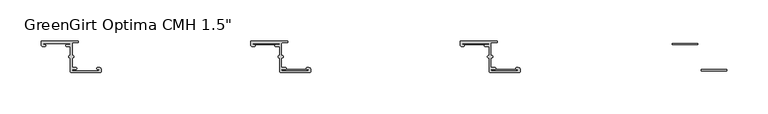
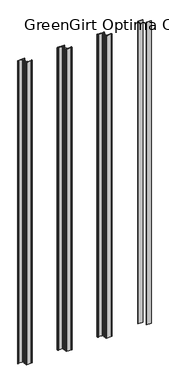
"""IFC4 building model written with IfcOpenShell, lengths in millimetres: fastener geometry."""

from ifc_helpers import new_model, si_unit, frame, origin, origin_with_axes, place, context, project, spatial, polyline, circle_curve, outline, extrude, source, transform, mapped, element, save
from ifc_brep_helpers import plane_surface, cylinder_surface, revolved_surface, advanced_brep


def fastener_c5e04b51(model_context):
    return source(origin(), model_context, "Body", "SolidModel", [
        extrude(outline(polyline([(1863.09, -2.794), (1863.09, -4.5212), (1832.102, -4.5212), (1832.102, -2.794), (1863.09, -2.794)])), origin_with_axes(), (0.0, 0.0, 1.0), 2032.0),
        extrude(outline(polyline([(1898.269, -34.4677766), (1898.269, -36.1949766), (1867.281, -36.1949766), (1867.281, -34.4677766), (1898.269, -34.4677766)])), origin_with_axes(), (0.0, 0.0, 1.0), 2032.0),
        advanced_brep(
        [(1578.102, -2.794, 2032.0), (1609.471, -2.794, 2032.0), (1609.471, -4.5212, 2032.0), (1605.28, -4.5212, 2032.0), (1605.28, -6.5532, 2032.0), (1609.471, -6.5532, 2032.0), (1610.233, -7.3152, 2032.0), (1610.233, -17.7601563, 2032.0), (1609.3845567, -17.7601563, 2032.0), (1609.3845567, -20.4288947, 2032.0), (1610.233, -20.4288947, 2032.0), (1610.233, -37.3379766, 2032.0), (1610.995, -38.0999766, 2032.0), (1646.8513242, -38.1, 2032.0), (1647.571, -37.3379766, 2032.0), (1647.571, -34.4677766, 2032.0), (1645.539, -32.4357766, 2032.0), (1643.253, -32.4357766, 2032.0), (1643.253, -34.4677766, 2032.0), (1644.269, -34.4677766, 2032.0), (1644.269, -36.1949766, 2032.0), (1612.9, -36.1949766, 2032.0), (1612.9, -34.4677766, 2032.0), (1617.091, -34.4677766, 2032.0), (1617.091, -32.4357766, 2032.0), (1612.9, -32.4357766, 2032.0), (1612.138, -31.6737766, 2032.0), (1612.138, -20.4279799, 2032.0), (1612.9869007, -20.4279799, 2032.0), (1612.9869007, -17.7601563, 2032.0), (1612.138, -17.7601563, 2032.0), (1612.138, -2.667, 2032.0), (1612.9, -1.905, 2032.0), (1618.996, -1.905, 2032.0), (1618.996, 0.0, 2032.0), (1575.562, 0.0, 2032.0), (1574.8, -0.762, 2032.0), (1574.8, -4.5212, 2032.0), (1576.832, -6.5532, 2032.0), (1579.118, -6.5532, 2032.0), (1579.118, -4.5212, 2032.0), (1578.102, -4.5212, 2032.0), (1578.102, -2.794, 0.0), (1578.102, -4.5212, 0.0), (1579.118, -4.5212, 0.0), (1579.118, -6.5532, 0.0), (1576.832, -6.5532, 0.0), (1574.8, -4.5212, 0.0), (1574.8, -0.762, 0.0), (1575.562, 0.0, 0.0), (1618.996, 0.0, 0.0), (1618.996, -1.905, 0.0), (1612.9, -1.905, 0.0), (1612.138, -2.667, 0.0), (1612.138, -17.7601563, 0.0), (1612.9869007, -17.7601563, 0.0), (1612.9869007, -20.4279799, 0.0), (1612.138, -20.4279799, 0.0), (1612.138, -31.6737766, 0.0), (1612.9, -32.4357766, 0.0), (1617.091, -32.4357766, 0.0), (1617.091, -34.4677766, 0.0), (1612.9, -34.4677766, 0.0), (1612.9, -36.1949766, 0.0), (1644.269, -36.1949766, 0.0), (1644.269, -34.4677766, 0.0), (1643.253, -34.4677766, 0.0), (1643.253, -32.4357766, 0.0), (1645.539, -32.4357766, 0.0), (1647.571, -34.4677766, 0.0), (1647.571, -37.3379766, 0.0), (1646.809, -38.0999766, 0.0), (1610.9676774, -38.1, 0.0), (1610.233, -37.3379766, 0.0), (1610.233, -20.4288947, 0.0), (1609.3845567, -20.4288947, 0.0), (1609.3845567, -17.7601563, 0.0), (1610.233, -17.7601563, 0.0), (1610.233, -7.3152, 0.0), (1609.471, -6.5532, 0.0), (1605.28, -6.5532, 0.0), (1605.28, -4.5212, 0.0), (1609.471, -4.5212, 0.0), (1609.471, -2.794, 0.0)],
        [
            (0, 1),
            (1, 2, circle_curve(frame((1609.471, -3.6576, 2032.0), z_axis=(0.0, 0.0, -1.0), x_axis=(1.0, 0.0, 0.0)), 0.8636)),
            (2, 3),
            (3, 4, circle_curve(frame((1605.28, -5.5372, 2032.0), z_axis=(0.0, 0.0, 1.0), x_axis=(1.0, 0.0, 0.0)), 1.016)),
            (4, 5),
            (5, 6, circle_curve(frame((1609.471, -7.3152, 2032.0), z_axis=(0.0, 0.0, -1.0), x_axis=(1.0, 0.0, 0.0)), 0.762)),
            (6, 7),
            (7, 8),
            (8, 9, circle_curve(frame((1609.3845567, -19.0945255, 2032.0), z_axis=(0.0, 0.0, 1.0), x_axis=(1.0, 0.0, 0.0)), 1.3343692)),
            (9, 10),
            (10, 11),
            (11, 12, circle_curve(frame((1610.995, -37.3379766, 2032.0), z_axis=(0.0, 0.0, 1.0), x_axis=(1.0, 0.0, 0.0)), 0.762)),
            (12, 13),
            (13, 14, circle_curve(frame((1646.809, -37.3379766, 2032.0), z_axis=(0.0, 0.0, 1.0), x_axis=(1.0, 0.0, 0.0)), 0.762)),
            (14, 15),
            (15, 16, circle_curve(frame((1645.539, -34.4677766, 2032.0), z_axis=(0.0, 0.0, 1.0), x_axis=(1.0, 0.0, 0.0)), 2.032)),
            (16, 17),
            (17, 18, circle_curve(frame((1643.253, -33.4517766, 2032.0), z_axis=(0.0, 0.0, 1.0), x_axis=(1.0, 0.0, 0.0)), 1.016)),
            (18, 19),
            (19, 20, circle_curve(frame((1644.269, -35.3313766, 2032.0), z_axis=(0.0, 0.0, -1.0), x_axis=(1.0, 0.0, 0.0)), 0.8636)),
            (20, 21),
            (21, 22, circle_curve(frame((1612.9, -35.3313766, 2032.0), z_axis=(0.0, 0.0, -1.0), x_axis=(1.0, 0.0, 0.0)), 0.8636)),
            (22, 23),
            (23, 24, circle_curve(frame((1617.091, -33.4517766, 2032.0), z_axis=(0.0, 0.0, 1.0), x_axis=(1.0, 0.0, 0.0)), 1.016)),
            (24, 25),
            (25, 26, circle_curve(frame((1612.9, -31.6737766, 2032.0), z_axis=(0.0, 0.0, -1.0), x_axis=(1.0, 0.0, 0.0)), 0.762)),
            (26, 27),
            (27, 28),
            (28, 29, circle_curve(frame((1612.9869007, -19.0940681, 2032.0), z_axis=(0.0, 0.0, 1.0), x_axis=(1.0, 0.0, 0.0)), 1.3339118)),
            (29, 30),
            (30, 31),
            (31, 32, circle_curve(frame((1612.9, -2.667, 2032.0), z_axis=(0.0, 0.0, -1.0), x_axis=(1.0, 0.0, 0.0)), 0.762)),
            (32, 33),
            (33, 34, circle_curve(frame((1618.996, -0.9525, 2032.0), z_axis=(0.0, 0.0, 1.0), x_axis=(1.0, 0.0, 0.0)), 0.9525)),
            (34, 35),
            (35, 36, circle_curve(frame((1575.562, -0.762, 2032.0), z_axis=(0.0, 0.0, 1.0), x_axis=(1.0, 0.0, 0.0)), 0.762)),
            (36, 37),
            (37, 38, circle_curve(frame((1576.832, -4.5212, 2032.0), z_axis=(0.0, 0.0, 1.0), x_axis=(1.0, 0.0, 0.0)), 2.032)),
            (38, 39),
            (39, 40, circle_curve(frame((1579.118, -5.5372, 2032.0), z_axis=(0.0, 0.0, 1.0), x_axis=(1.0, 0.0, 0.0)), 1.016)),
            (40, 41),
            (41, 0, circle_curve(frame((1578.102, -3.6576, 2032.0), z_axis=(0.0, 0.0, -1.0), x_axis=(1.0, 0.0, 0.0)), 0.8636)),
            (42, 43, circle_curve(frame((1578.102, -3.6576, 0.0), z_axis=(0.0, 0.0, 1.0), x_axis=(1.0, 0.0, 0.0)), 0.8636)),
            (43, 44),
            (44, 45, circle_curve(frame((1579.118, -5.5372, 0.0), z_axis=(0.0, 0.0, -1.0), x_axis=(1.0, 0.0, 0.0)), 1.016)),
            (45, 46),
            (46, 47, circle_curve(frame((1576.832, -4.5212, 0.0), z_axis=(0.0, 0.0, -1.0), x_axis=(1.0, 0.0, 0.0)), 2.032)),
            (47, 48),
            (48, 49, circle_curve(frame((1575.562, -0.762, 0.0), z_axis=(0.0, 0.0, -1.0), x_axis=(1.0, 0.0, 0.0)), 0.762)),
            (49, 50),
            (50, 51, circle_curve(frame((1618.996, -0.9525, 0.0), z_axis=(0.0, 0.0, -1.0), x_axis=(1.0, 0.0, 0.0)), 0.9525)),
            (51, 52),
            (52, 53, circle_curve(frame((1612.9, -2.667, 0.0), z_axis=(0.0, 0.0, 1.0), x_axis=(1.0, 0.0, 0.0)), 0.762)),
            (53, 54),
            (54, 55),
            (55, 56, circle_curve(frame((1612.9869007, -19.0940681, 0.0), z_axis=(0.0, 0.0, -1.0), x_axis=(1.0, 0.0, 0.0)), 1.3339118)),
            (56, 57),
            (57, 58),
            (58, 59, circle_curve(frame((1612.9, -31.6737766, 0.0), z_axis=(0.0, 0.0, 1.0), x_axis=(1.0, 0.0, 0.0)), 0.762)),
            (59, 60),
            (60, 61, circle_curve(frame((1617.091, -33.4517766, 0.0), z_axis=(0.0, 0.0, -1.0), x_axis=(1.0, 0.0, 0.0)), 1.016)),
            (61, 62),
            (62, 63, circle_curve(frame((1612.9, -35.3313766, 0.0), z_axis=(0.0, 0.0, 1.0), x_axis=(1.0, 0.0, 0.0)), 0.8636)),
            (63, 64),
            (64, 65, circle_curve(frame((1644.269, -35.3313766, 0.0), z_axis=(0.0, 0.0, 1.0), x_axis=(1.0, 0.0, 0.0)), 0.8636)),
            (65, 66),
            (66, 67, circle_curve(frame((1643.253, -33.4517766, 0.0), z_axis=(0.0, 0.0, -1.0), x_axis=(1.0, 0.0, 0.0)), 1.016)),
            (67, 68),
            (68, 69, circle_curve(frame((1645.539, -34.4677766, 0.0), z_axis=(0.0, 0.0, -1.0), x_axis=(1.0, 0.0, 0.0)), 2.032)),
            (69, 70),
            (70, 71, circle_curve(frame((1646.809, -37.3379766, 0.0), z_axis=(0.0, 0.0, -1.0), x_axis=(1.0, 0.0, 0.0)), 0.762)),
            (71, 72),
            (72, 73, circle_curve(frame((1610.995, -37.3379766, 0.0), z_axis=(0.0, 0.0, -1.0), x_axis=(1.0, 0.0, 0.0)), 0.762)),
            (73, 74),
            (74, 75),
            (75, 76, circle_curve(frame((1609.3845567, -19.0945255, 0.0), z_axis=(0.0, 0.0, -1.0), x_axis=(1.0, 0.0, 0.0)), 1.3343692)),
            (76, 77),
            (77, 78),
            (78, 79, circle_curve(frame((1609.471, -7.3152, 0.0), z_axis=(0.0, 0.0, 1.0), x_axis=(1.0, 0.0, 0.0)), 0.762)),
            (79, 80),
            (80, 81, circle_curve(frame((1605.28, -5.5372, 0.0), z_axis=(0.0, 0.0, -1.0), x_axis=(1.0, 0.0, 0.0)), 1.016)),
            (81, 82),
            (82, 83, circle_curve(frame((1609.471, -3.6576, 0.0), z_axis=(0.0, 0.0, 1.0), x_axis=(1.0, 0.0, 0.0)), 0.8636)),
            (83, 42),
            (0, 42),
            (83, 1),
            (82, 2),
            (81, 3),
            (80, 4),
            (79, 5),
            (78, 6),
            (77, 7),
            (76, 8),
            (75, 9),
            (74, 10),
            (73, 11),
            (72, 12),
            (71, 13),
            (70, 14),
            (69, 15),
            (68, 16),
            (67, 17),
            (66, 18),
            (65, 19),
            (64, 20),
            (63, 21),
            (62, 22),
            (61, 23),
            (60, 24),
            (59, 25),
            (58, 26),
            (57, 27),
            (56, 28),
            (55, 29),
            (54, 30),
            (53, 31),
            (52, 32),
            (51, 33),
            (50, 34),
            (49, 35),
            (48, 36),
            (47, 37),
            (46, 38),
            (45, 39),
            (44, 40),
            (43, 41),
        ],
        [
            plane_surface(frame((1609.471, -2.794, 2032.0), z_axis=(0.0, 0.0, 1.0), x_axis=(1.0, 0.0, 0.0))),
            plane_surface(frame((1609.471, -2.794, 0.0), z_axis=(0.0, 0.0, -1.0), x_axis=(-1.0, 0.0, 0.0))),
            plane_surface(frame((1578.102, -2.794, 2032.0), z_axis=(0.0, -1.0, 0.0), x_axis=(0.0, 0.0, -1.0))),
            revolved_surface(polyline([(1610.3346, -3.6576, 0.0), (1610.3346, -3.6576, 2032.0)]), (1609.471, -3.6576, 0.0), (0.0, 0.0, -1.0)),
            plane_surface(frame((1609.471, -4.5212, 2032.0), z_axis=(0.0, 1.0, 0.0), x_axis=(0.0, 0.0, -1.0))),
            cylinder_surface(frame((1605.28, -5.5372, 0.0), z_axis=(0.0, 0.0, 1.0), x_axis=(1.0, 0.0, 0.0)), 1.016),
            plane_surface(frame((1605.28, -6.5532, 2032.0), z_axis=(0.0, -1.0, 0.0), x_axis=(0.0, 0.0, -1.0))),
            revolved_surface(polyline([(1610.233, -7.3152, 0.0), (1610.233, -7.3152, 2032.0)]), (1609.471, -7.3152, 0.0), (0.0, 0.0, -1.0)),
            plane_surface(frame((1610.233, -7.3152, 2032.0), z_axis=(-1.0, 0.0, 0.0), x_axis=(0.0, 0.0, -1.0))),
            plane_surface(frame((1610.233, -17.7601563, 2032.0), z_axis=(0.0, 1.0, 0.0), x_axis=(0.0, 0.0, -1.0))),
            cylinder_surface(frame((1609.3845567, -19.0945255, 0.0), z_axis=(0.0, 0.0, 1.0), x_axis=(1.0, 0.0, 0.0)), 1.3343692),
            plane_surface(frame((1609.3845567, -20.4288947, 2032.0), z_axis=(0.0, -1.0, 0.0), x_axis=(0.0, 0.0, -1.0))),
            plane_surface(frame((1610.233, -20.4288947, 2032.0), z_axis=(-1.0, 0.0, 0.0), x_axis=(0.0, 0.0, -1.0))),
            cylinder_surface(frame((1610.995, -37.3379766, 0.0), z_axis=(0.0, 0.0, 1.0), x_axis=(1.0, 0.0, 0.0)), 0.762),
            plane_surface(frame((1610.9676774, -38.1, 2032.0), z_axis=(0.0, -1.0, 0.0), x_axis=(0.0, 0.0, -1.0))),
            cylinder_surface(frame((1646.809, -37.3379766, 0.0), z_axis=(0.0, 0.0, 1.0), x_axis=(1.0, 0.0, 0.0)), 0.762),
            plane_surface(frame((1647.571, -37.3379766, 2032.0), z_axis=(1.0, 1.3794275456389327e-12, 0.0), x_axis=(0.0, 0.0, -1.0))),
            cylinder_surface(frame((1645.539, -34.4677766, 0.0), z_axis=(0.0, 0.0, 1.0), x_axis=(1.0, 0.0, 0.0)), 2.032),
            plane_surface(frame((1645.539, -32.4357766, 2032.0), z_axis=(0.0, 1.0, 0.0), x_axis=(0.0, 0.0, -1.0))),
            cylinder_surface(frame((1643.253, -33.4517766, 0.0), z_axis=(0.0, 0.0, 1.0), x_axis=(1.0, 0.0, 0.0)), 1.016),
            plane_surface(frame((1643.253, -34.4677766, 2032.0), z_axis=(0.0, -1.0, 0.0), x_axis=(0.0, 0.0, -1.0))),
            revolved_surface(polyline([(1645.1326, -35.3313766, 0.0), (1645.1326, -35.3313766, 2032.0)]), (1644.269, -35.3313766, 0.0), (0.0, 0.0, -1.0)),
            plane_surface(frame((1644.269, -36.1949766, 2032.0), z_axis=(0.0, 1.0, 0.0), x_axis=(0.0, 0.0, -1.0))),
            revolved_surface(polyline([(1613.7636, -35.3313766, 0.0), (1613.7636, -35.3313766, 2032.0)]), (1612.9, -35.3313766, 0.0), (0.0, 0.0, -1.0)),
            plane_surface(frame((1612.9, -34.4677766, 2032.0), z_axis=(0.0, -1.0, 0.0), x_axis=(0.0, 0.0, -1.0))),
            cylinder_surface(frame((1617.091, -33.4517766, 0.0), z_axis=(0.0, 0.0, 1.0), x_axis=(1.0, 0.0, 0.0)), 1.016),
            plane_surface(frame((1617.091, -32.4357766, 2032.0), z_axis=(0.0, 1.0, 0.0), x_axis=(0.0, 0.0, -1.0))),
            revolved_surface(polyline([(1613.662, -31.6737766, 0.0), (1613.662, -31.6737766, 2032.0)]), (1612.9, -31.6737766, 0.0), (0.0, 0.0, -1.0)),
            plane_surface(frame((1612.138, -31.6737766, 2032.0), z_axis=(1.0, 0.0, 0.0), x_axis=(0.0, 0.0, -1.0))),
            plane_surface(frame((1612.138, -20.4279799, 2032.0), z_axis=(0.0, -1.0, 0.0), x_axis=(0.0, 0.0, -1.0))),
            cylinder_surface(frame((1612.9869007, -19.0940681, 0.0), z_axis=(0.0, 0.0, 1.0), x_axis=(1.0, 0.0, 0.0)), 1.3339118),
            plane_surface(frame((1612.9869007, -17.7601563, 2032.0), z_axis=(0.0, 1.0, 0.0), x_axis=(0.0, 0.0, -1.0))),
            plane_surface(frame((1612.138, -17.7601563, 2032.0), z_axis=(1.0, 0.0, 0.0), x_axis=(0.0, 0.0, -1.0))),
            revolved_surface(polyline([(1613.662, -2.667, 0.0), (1613.662, -2.667, 2032.0)]), (1612.9, -2.667, 0.0), (0.0, 0.0, -1.0)),
            plane_surface(frame((1612.9, -1.905, 2032.0), z_axis=(0.0, -1.0, 0.0), x_axis=(0.0, 0.0, -1.0))),
            cylinder_surface(frame((1618.996, -0.9525, 0.0), z_axis=(0.0, 0.0, 1.0), x_axis=(1.0, 0.0, 0.0)), 0.9525),
            plane_surface(frame((1618.996, 0.0, 2032.0), z_axis=(0.0, 1.0, 0.0), x_axis=(0.0, 0.0, -1.0))),
            cylinder_surface(frame((1575.562, -0.762, 0.0), z_axis=(0.0, 0.0, 1.0), x_axis=(1.0, 0.0, 0.0)), 0.762),
            plane_surface(frame((1574.8, -0.762, 2032.0), z_axis=(-1.0, 2.681638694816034e-11, 0.0), x_axis=(0.0, 0.0, -1.0))),
            cylinder_surface(frame((1576.832, -4.5212, 0.0), z_axis=(0.0, 0.0, 1.0), x_axis=(1.0, 0.0, 0.0)), 2.032),
            plane_surface(frame((1576.832, -6.5532, 2032.0), z_axis=(0.0, -1.0, 0.0), x_axis=(0.0, 0.0, -1.0))),
            cylinder_surface(frame((1579.118, -5.5372, 0.0), z_axis=(0.0, 0.0, 1.0), x_axis=(1.0, 0.0, 0.0)), 1.016),
            plane_surface(frame((1579.118, -4.5212, 2032.0), z_axis=(0.0, 1.0, 0.0), x_axis=(0.0, 0.0, -1.0))),
            revolved_surface(polyline([(1578.9656, -3.6576, 0.0), (1578.9656, -3.6576, 2032.0)]), (1578.102, -3.6576, 0.0), (0.0, 0.0, -1.0)),
        ],
        [
            (0, [[1, 2, 3, 4, 5, 6, 7, 8, 9, 10, 11, 12, 13, 14, 15, 16, 17, 18, 19, 20, 21, 22, 23, 24, 25, 26, 27, 28, 29, 30, 31, 32, 33, 34, 35, 36, 37, 38, 39, 40, 41, 42]]),
            (1, [[43, 44, 45, 46, 47, 48, 49, 50, 51, 52, 53, 54, 55, 56, 57, 58, 59, 60, 61, 62, 63, 64, 65, 66, 67, 68, 69, 70, 71, 72, 73, 74, 75, 76, 77, 78, 79, 80, 81, 82, 83, 84]]),
            (2, [[-1, 85, -84, 86]]),
            (3, [[-2, -86, -83, 87]]),
            (4, [[-3, -87, -82, 88]]),
            (5, [[-4, -88, -81, 89]]),
            (6, [[-5, -89, -80, 90]]),
            (7, [[-6, -90, -79, 91]]),
            (8, [[-7, -91, -78, 92]]),
            (9, [[-8, -92, -77, 93]]),
            (10, [[-9, -93, -76, 94]]),
            (11, [[-10, -94, -75, 95]]),
            (12, [[-11, -95, -74, 96]]),
            (13, [[-12, -96, -73, 97]]),
            (14, [[-13, -97, -72, 98]]),
            (15, [[-14, -98, -71, 99]]),
            (16, [[-15, -99, -70, 100]]),
            (17, [[-16, -100, -69, 101]]),
            (18, [[-17, -101, -68, 102]]),
            (19, [[-18, -102, -67, 103]]),
            (20, [[-19, -103, -66, 104]]),
            (21, [[-20, -104, -65, 105]]),
            (22, [[-21, -105, -64, 106]]),
            (23, [[-22, -106, -63, 107]]),
            (24, [[-23, -107, -62, 108]]),
            (25, [[-24, -108, -61, 109]]),
            (26, [[-25, -109, -60, 110]]),
            (27, [[-26, -110, -59, 111]]),
            (28, [[-27, -111, -58, 112]]),
            (29, [[-28, -112, -57, 113]]),
            (30, [[-29, -113, -56, 114]]),
            (31, [[-30, -114, -55, 115]]),
            (32, [[-31, -115, -54, 116]]),
            (33, [[-32, -116, -53, 117]]),
            (34, [[-33, -117, -52, 118]]),
            (35, [[-34, -118, -51, 119]]),
            (36, [[-35, -119, -50, 120]]),
            (37, [[-36, -120, -49, 121]]),
            (38, [[-37, -121, -48, 122]]),
            (39, [[-38, -122, -47, 123]]),
            (40, [[-39, -123, -46, 124]]),
            (41, [[-40, -124, -45, 125]]),
            (42, [[-41, -125, -44, 126]]),
            (43, [[-42, -126, -43, -85]]),
        ],
    ),
        extrude(outline(polyline([(1609.09, -2.794), (1609.09, -4.5212), (1578.102, -4.5212), (1578.102, -2.794), (1609.09, -2.794)])), origin_with_axes(), (0.0, 0.0, 1.0), 2032.0),
        extrude(outline(polyline([(1644.269, -34.4677766), (1644.269, -36.1949766), (1613.281, -36.1949766), (1613.281, -34.4677766), (1644.269, -34.4677766)])), origin_with_axes(), (0.0, 0.0, 1.0), 2032.0),
        advanced_brep(
        [(1324.102, -2.794, 2032.0), (1355.471, -2.794, 2032.0), (1355.471, -4.5212, 2032.0), (1351.28, -4.5212, 2032.0), (1351.28, -6.5532, 2032.0), (1355.471, -6.5532, 2032.0), (1356.233, -7.3152, 2032.0), (1356.233, -17.7601563, 2032.0), (1355.3845567, -17.7601563, 2032.0), (1355.3845567, -20.4288947, 2032.0), (1356.233, -20.4288947, 2032.0), (1356.233, -37.3379766, 2032.0), (1356.995, -38.0999766, 2032.0), (1392.8513242, -38.1, 2032.0), (1393.571, -37.3379766, 2032.0), (1393.571, -34.4677766, 2032.0), (1391.539, -32.4357766, 2032.0), (1389.253, -32.4357766, 2032.0), (1389.253, -34.4677766, 2032.0), (1390.269, -34.4677766, 2032.0), (1390.269, -36.1949766, 2032.0), (1358.9, -36.1949766, 2032.0), (1358.9, -34.4677766, 2032.0), (1363.091, -34.4677766, 2032.0), (1363.091, -32.4357766, 2032.0), (1358.9, -32.4357766, 2032.0), (1358.138, -31.6737766, 2032.0), (1358.138, -20.4279799, 2032.0), (1358.9869007, -20.4279799, 2032.0), (1358.9869007, -17.7601563, 2032.0), (1358.138, -17.7601563, 2032.0), (1358.138, -2.667, 2032.0), (1358.9, -1.905, 2032.0), (1364.996, -1.905, 2032.0), (1364.996, 0.0, 2032.0), (1321.562, 0.0, 2032.0), (1320.8, -0.762, 2032.0), (1320.8, -4.5212, 2032.0), (1322.832, -6.5532, 2032.0), (1325.118, -6.5532, 2032.0), (1325.118, -4.5212, 2032.0), (1324.102, -4.5212, 2032.0), (1324.102, -2.794, 0.0), (1324.102, -4.5212, 0.0), (1325.118, -4.5212, 0.0), (1325.118, -6.5532, 0.0), (1322.832, -6.5532, 0.0), (1320.8, -4.5212, 0.0), (1320.8, -0.762, 0.0), (1321.562, 0.0, 0.0), (1364.996, 0.0, 0.0), (1364.996, -1.905, 0.0), (1358.9, -1.905, 0.0), (1358.138, -2.667, 0.0), (1358.138, -17.7601563, 0.0), (1358.9869007, -17.7601563, 0.0), (1358.9869007, -20.4279799, 0.0), (1358.138, -20.4279799, 0.0), (1358.138, -31.6737766, 0.0), (1358.9, -32.4357766, 0.0), (1363.091, -32.4357766, 0.0), (1363.091, -34.4677766, 0.0), (1358.9, -34.4677766, 0.0), (1358.9, -36.1949766, 0.0), (1390.269, -36.1949766, 0.0), (1390.269, -34.4677766, 0.0), (1389.253, -34.4677766, 0.0), (1389.253, -32.4357766, 0.0), (1391.539, -32.4357766, 0.0), (1393.571, -34.4677766, 0.0), (1393.571, -37.3379766, 0.0), (1392.809, -38.0999766, 0.0), (1356.9676774, -38.1, 0.0), (1356.233, -37.3379766, 0.0), (1356.233, -20.4288947, 0.0), (1355.3845567, -20.4288947, 0.0), (1355.3845567, -17.7601563, 0.0), (1356.233, -17.7601563, 0.0), (1356.233, -7.3152, 0.0), (1355.471, -6.5532, 0.0), (1351.28, -6.5532, 0.0), (1351.28, -4.5212, 0.0), (1355.471, -4.5212, 0.0), (1355.471, -2.794, 0.0)],
        [
            (0, 1),
            (1, 2, circle_curve(frame((1355.471, -3.6576, 2032.0), z_axis=(0.0, 0.0, -1.0), x_axis=(1.0, 0.0, 0.0)), 0.8636)),
            (2, 3),
            (3, 4, circle_curve(frame((1351.28, -5.5372, 2032.0), z_axis=(0.0, 0.0, 1.0), x_axis=(1.0, 0.0, 0.0)), 1.016)),
            (4, 5),
            (5, 6, circle_curve(frame((1355.471, -7.3152, 2032.0), z_axis=(0.0, 0.0, -1.0), x_axis=(1.0, 0.0, 0.0)), 0.762)),
            (6, 7),
            (7, 8),
            (8, 9, circle_curve(frame((1355.3845567, -19.0945255, 2032.0), z_axis=(0.0, 0.0, 1.0), x_axis=(1.0, 0.0, 0.0)), 1.3343692)),
            (9, 10),
            (10, 11),
            (11, 12, circle_curve(frame((1356.995, -37.3379766, 2032.0), z_axis=(0.0, 0.0, 1.0), x_axis=(1.0, 0.0, 0.0)), 0.762)),
            (12, 13),
            (13, 14, circle_curve(frame((1392.809, -37.3379766, 2032.0), z_axis=(0.0, 0.0, 1.0), x_axis=(1.0, 0.0, 0.0)), 0.762)),
            (14, 15),
            (15, 16, circle_curve(frame((1391.539, -34.4677766, 2032.0), z_axis=(0.0, 0.0, 1.0), x_axis=(1.0, 0.0, 0.0)), 2.032)),
            (16, 17),
            (17, 18, circle_curve(frame((1389.253, -33.4517766, 2032.0), z_axis=(0.0, 0.0, 1.0), x_axis=(1.0, 0.0, 0.0)), 1.016)),
            (18, 19),
            (19, 20, circle_curve(frame((1390.269, -35.3313766, 2032.0), z_axis=(0.0, 0.0, -1.0), x_axis=(1.0, 0.0, 0.0)), 0.8636)),
            (20, 21),
            (21, 22, circle_curve(frame((1358.9, -35.3313766, 2032.0), z_axis=(0.0, 0.0, -1.0), x_axis=(1.0, 0.0, 0.0)), 0.8636)),
            (22, 23),
            (23, 24, circle_curve(frame((1363.091, -33.4517766, 2032.0), z_axis=(0.0, 0.0, 1.0), x_axis=(1.0, 0.0, 0.0)), 1.016)),
            (24, 25),
            (25, 26, circle_curve(frame((1358.9, -31.6737766, 2032.0), z_axis=(0.0, 0.0, -1.0), x_axis=(1.0, 0.0, 0.0)), 0.762)),
            (26, 27),
            (27, 28),
            (28, 29, circle_curve(frame((1358.9869007, -19.0940681, 2032.0), z_axis=(0.0, 0.0, 1.0), x_axis=(1.0, 0.0, 0.0)), 1.3339118)),
            (29, 30),
            (30, 31),
            (31, 32, circle_curve(frame((1358.9, -2.667, 2032.0), z_axis=(0.0, 0.0, -1.0), x_axis=(1.0, 0.0, 0.0)), 0.762)),
            (32, 33),
            (33, 34, circle_curve(frame((1364.996, -0.9525, 2032.0), z_axis=(0.0, 0.0, 1.0), x_axis=(1.0, 0.0, 0.0)), 0.9525)),
            (34, 35),
            (35, 36, circle_curve(frame((1321.562, -0.762, 2032.0), z_axis=(0.0, 0.0, 1.0), x_axis=(1.0, 0.0, 0.0)), 0.762)),
            (36, 37),
            (37, 38, circle_curve(frame((1322.832, -4.5212, 2032.0), z_axis=(0.0, 0.0, 1.0), x_axis=(1.0, 0.0, 0.0)), 2.032)),
            (38, 39),
            (39, 40, circle_curve(frame((1325.118, -5.5372, 2032.0), z_axis=(0.0, 0.0, 1.0), x_axis=(1.0, 0.0, 0.0)), 1.016)),
            (40, 41),
            (41, 0, circle_curve(frame((1324.102, -3.6576, 2032.0), z_axis=(0.0, 0.0, -1.0), x_axis=(1.0, 0.0, 0.0)), 0.8636)),
            (42, 43, circle_curve(frame((1324.102, -3.6576, 0.0), z_axis=(0.0, 0.0, 1.0), x_axis=(1.0, 0.0, 0.0)), 0.8636)),
            (43, 44),
            (44, 45, circle_curve(frame((1325.118, -5.5372, 0.0), z_axis=(0.0, 0.0, -1.0), x_axis=(1.0, 0.0, 0.0)), 1.016)),
            (45, 46),
            (46, 47, circle_curve(frame((1322.832, -4.5212, 0.0), z_axis=(0.0, 0.0, -1.0), x_axis=(1.0, 0.0, 0.0)), 2.032)),
            (47, 48),
            (48, 49, circle_curve(frame((1321.562, -0.762, 0.0), z_axis=(0.0, 0.0, -1.0), x_axis=(1.0, 0.0, 0.0)), 0.762)),
            (49, 50),
            (50, 51, circle_curve(frame((1364.996, -0.9525, 0.0), z_axis=(0.0, 0.0, -1.0), x_axis=(1.0, 0.0, 0.0)), 0.9525)),
            (51, 52),
            (52, 53, circle_curve(frame((1358.9, -2.667, 0.0), z_axis=(0.0, 0.0, 1.0), x_axis=(1.0, 0.0, 0.0)), 0.762)),
            (53, 54),
            (54, 55),
            (55, 56, circle_curve(frame((1358.9869007, -19.0940681, 0.0), z_axis=(0.0, 0.0, -1.0), x_axis=(1.0, 0.0, 0.0)), 1.3339118)),
            (56, 57),
            (57, 58),
            (58, 59, circle_curve(frame((1358.9, -31.6737766, 0.0), z_axis=(0.0, 0.0, 1.0), x_axis=(1.0, 0.0, 0.0)), 0.762)),
            (59, 60),
            (60, 61, circle_curve(frame((1363.091, -33.4517766, 0.0), z_axis=(0.0, 0.0, -1.0), x_axis=(1.0, 0.0, 0.0)), 1.016)),
            (61, 62),
            (62, 63, circle_curve(frame((1358.9, -35.3313766, 0.0), z_axis=(0.0, 0.0, 1.0), x_axis=(1.0, 0.0, 0.0)), 0.8636)),
            (63, 64),
            (64, 65, circle_curve(frame((1390.269, -35.3313766, 0.0), z_axis=(0.0, 0.0, 1.0), x_axis=(1.0, 0.0, 0.0)), 0.8636)),
            (65, 66),
            (66, 67, circle_curve(frame((1389.253, -33.4517766, 0.0), z_axis=(0.0, 0.0, -1.0), x_axis=(1.0, 0.0, 0.0)), 1.016)),
            (67, 68),
            (68, 69, circle_curve(frame((1391.539, -34.4677766, 0.0), z_axis=(0.0, 0.0, -1.0), x_axis=(1.0, 0.0, 0.0)), 2.032)),
            (69, 70),
            (70, 71, circle_curve(frame((1392.809, -37.3379766, 0.0), z_axis=(0.0, 0.0, -1.0), x_axis=(1.0, 0.0, 0.0)), 0.762)),
            (71, 72),
            (72, 73, circle_curve(frame((1356.995, -37.3379766, 0.0), z_axis=(0.0, 0.0, -1.0), x_axis=(1.0, 0.0, 0.0)), 0.762)),
            (73, 74),
            (74, 75),
            (75, 76, circle_curve(frame((1355.3845567, -19.0945255, 0.0), z_axis=(0.0, 0.0, -1.0), x_axis=(1.0, 0.0, 0.0)), 1.3343692)),
            (76, 77),
            (77, 78),
            (78, 79, circle_curve(frame((1355.471, -7.3152, 0.0), z_axis=(0.0, 0.0, 1.0), x_axis=(1.0, 0.0, 0.0)), 0.762)),
            (79, 80),
            (80, 81, circle_curve(frame((1351.28, -5.5372, 0.0), z_axis=(0.0, 0.0, -1.0), x_axis=(1.0, 0.0, 0.0)), 1.016)),
            (81, 82),
            (82, 83, circle_curve(frame((1355.471, -3.6576, 0.0), z_axis=(0.0, 0.0, 1.0), x_axis=(1.0, 0.0, 0.0)), 0.8636)),
            (83, 42),
            (0, 42),
            (83, 1),
            (82, 2),
            (81, 3),
            (80, 4),
            (79, 5),
            (78, 6),
            (77, 7),
            (76, 8),
            (75, 9),
            (74, 10),
            (73, 11),
            (72, 12),
            (71, 13),
            (70, 14),
            (69, 15),
            (68, 16),
            (67, 17),
            (66, 18),
            (65, 19),
            (64, 20),
            (63, 21),
            (62, 22),
            (61, 23),
            (60, 24),
            (59, 25),
            (58, 26),
            (57, 27),
            (56, 28),
            (55, 29),
            (54, 30),
            (53, 31),
            (52, 32),
            (51, 33),
            (50, 34),
            (49, 35),
            (48, 36),
            (47, 37),
            (46, 38),
            (45, 39),
            (44, 40),
            (43, 41),
        ],
        [
            plane_surface(frame((1355.471, -2.794, 2032.0), z_axis=(0.0, 0.0, 1.0), x_axis=(1.0, 0.0, 0.0))),
            plane_surface(frame((1355.471, -2.794, 0.0), z_axis=(0.0, 0.0, -1.0), x_axis=(-1.0, 0.0, 0.0))),
            plane_surface(frame((1324.102, -2.794, 2032.0), z_axis=(0.0, -1.0, 0.0), x_axis=(0.0, 0.0, -1.0))),
            revolved_surface(polyline([(1356.3346, -3.6576, 0.0), (1356.3346, -3.6576, 2032.0)]), (1355.471, -3.6576, 0.0), (0.0, 0.0, -1.0)),
            plane_surface(frame((1355.471, -4.5212, 2032.0), z_axis=(0.0, 1.0, 0.0), x_axis=(0.0, 0.0, -1.0))),
            cylinder_surface(frame((1351.28, -5.5372, 0.0), z_axis=(0.0, 0.0, 1.0), x_axis=(1.0, 0.0, 0.0)), 1.016),
            plane_surface(frame((1351.28, -6.5532, 2032.0), z_axis=(0.0, -1.0, 0.0), x_axis=(0.0, 0.0, -1.0))),
            revolved_surface(polyline([(1356.233, -7.3152, 0.0), (1356.233, -7.3152, 2032.0)]), (1355.471, -7.3152, 0.0), (0.0, 0.0, -1.0)),
            plane_surface(frame((1356.233, -7.3152, 2032.0), z_axis=(-1.0, 0.0, 0.0), x_axis=(0.0, 0.0, -1.0))),
            plane_surface(frame((1356.233, -17.7601563, 2032.0), z_axis=(0.0, 1.0, 0.0), x_axis=(0.0, 0.0, -1.0))),
            cylinder_surface(frame((1355.3845567, -19.0945255, 0.0), z_axis=(0.0, 0.0, 1.0), x_axis=(1.0, 0.0, 0.0)), 1.3343692),
            plane_surface(frame((1355.3845567, -20.4288947, 2032.0), z_axis=(0.0, -1.0, 0.0), x_axis=(0.0, 0.0, -1.0))),
            plane_surface(frame((1356.233, -20.4288947, 2032.0), z_axis=(-1.0, 0.0, 0.0), x_axis=(0.0, 0.0, -1.0))),
            cylinder_surface(frame((1356.995, -37.3379766, 0.0), z_axis=(0.0, 0.0, 1.0), x_axis=(1.0, 0.0, 0.0)), 0.762),
            plane_surface(frame((1356.9676774, -38.1, 2032.0), z_axis=(0.0, -1.0, 0.0), x_axis=(0.0, 0.0, -1.0))),
            cylinder_surface(frame((1392.809, -37.3379766, 0.0), z_axis=(0.0, 0.0, 1.0), x_axis=(1.0, 0.0, 0.0)), 0.762),
            plane_surface(frame((1393.571, -37.3379766, 2032.0), z_axis=(1.0, 1.3794275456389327e-12, 0.0), x_axis=(0.0, 0.0, -1.0))),
            cylinder_surface(frame((1391.539, -34.4677766, 0.0), z_axis=(0.0, 0.0, 1.0), x_axis=(1.0, 0.0, 0.0)), 2.032),
            plane_surface(frame((1391.539, -32.4357766, 2032.0), z_axis=(0.0, 1.0, 0.0), x_axis=(0.0, 0.0, -1.0))),
            cylinder_surface(frame((1389.253, -33.4517766, 0.0), z_axis=(0.0, 0.0, 1.0), x_axis=(1.0, 0.0, 0.0)), 1.016),
            plane_surface(frame((1389.253, -34.4677766, 2032.0), z_axis=(0.0, -1.0, 0.0), x_axis=(0.0, 0.0, -1.0))),
            revolved_surface(polyline([(1391.1326, -35.3313766, 0.0), (1391.1326, -35.3313766, 2032.0)]), (1390.269, -35.3313766, 0.0), (0.0, 0.0, -1.0)),
            plane_surface(frame((1390.269, -36.1949766, 2032.0), z_axis=(0.0, 1.0, 0.0), x_axis=(0.0, 0.0, -1.0))),
            revolved_surface(polyline([(1359.7636, -35.3313766, 0.0), (1359.7636, -35.3313766, 2032.0)]), (1358.9, -35.3313766, 0.0), (0.0, 0.0, -1.0)),
            plane_surface(frame((1358.9, -34.4677766, 2032.0), z_axis=(0.0, -1.0, 0.0), x_axis=(0.0, 0.0, -1.0))),
            cylinder_surface(frame((1363.091, -33.4517766, 0.0), z_axis=(0.0, 0.0, 1.0), x_axis=(1.0, 0.0, 0.0)), 1.016),
            plane_surface(frame((1363.091, -32.4357766, 2032.0), z_axis=(0.0, 1.0, 0.0), x_axis=(0.0, 0.0, -1.0))),
            revolved_surface(polyline([(1359.662, -31.6737766, 0.0), (1359.662, -31.6737766, 2032.0)]), (1358.9, -31.6737766, 0.0), (0.0, 0.0, -1.0)),
            plane_surface(frame((1358.138, -31.6737766, 2032.0), z_axis=(1.0, 0.0, 0.0), x_axis=(0.0, 0.0, -1.0))),
            plane_surface(frame((1358.138, -20.4279799, 2032.0), z_axis=(0.0, -1.0, 0.0), x_axis=(0.0, 0.0, -1.0))),
            cylinder_surface(frame((1358.9869007, -19.0940681, 0.0), z_axis=(0.0, 0.0, 1.0), x_axis=(1.0, 0.0, 0.0)), 1.3339118),
            plane_surface(frame((1358.9869007, -17.7601563, 2032.0), z_axis=(0.0, 1.0, 0.0), x_axis=(0.0, 0.0, -1.0))),
            plane_surface(frame((1358.138, -17.7601563, 2032.0), z_axis=(1.0, 0.0, 0.0), x_axis=(0.0, 0.0, -1.0))),
            revolved_surface(polyline([(1359.662, -2.667, 0.0), (1359.662, -2.667, 2032.0)]), (1358.9, -2.667, 0.0), (0.0, 0.0, -1.0)),
            plane_surface(frame((1358.9, -1.905, 2032.0), z_axis=(0.0, -1.0, 0.0), x_axis=(0.0, 0.0, -1.0))),
            cylinder_surface(frame((1364.996, -0.9525, 0.0), z_axis=(0.0, 0.0, 1.0), x_axis=(1.0, 0.0, 0.0)), 0.9525),
            plane_surface(frame((1364.996, 0.0, 2032.0), z_axis=(0.0, 1.0, 0.0), x_axis=(0.0, 0.0, -1.0))),
            cylinder_surface(frame((1321.562, -0.762, 0.0), z_axis=(0.0, 0.0, 1.0), x_axis=(1.0, 0.0, 0.0)), 0.762),
            plane_surface(frame((1320.8, -0.762, 2032.0), z_axis=(-1.0, 2.681638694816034e-11, 0.0), x_axis=(0.0, 0.0, -1.0))),
            cylinder_surface(frame((1322.832, -4.5212, 0.0), z_axis=(0.0, 0.0, 1.0), x_axis=(1.0, 0.0, 0.0)), 2.032),
            plane_surface(frame((1322.832, -6.5532, 2032.0), z_axis=(0.0, -1.0, 0.0), x_axis=(0.0, 0.0, -1.0))),
            cylinder_surface(frame((1325.118, -5.5372, 0.0), z_axis=(0.0, 0.0, 1.0), x_axis=(1.0, 0.0, 0.0)), 1.016),
            plane_surface(frame((1325.118, -4.5212, 2032.0), z_axis=(0.0, 1.0, 0.0), x_axis=(0.0, 0.0, -1.0))),
            revolved_surface(polyline([(1324.9656, -3.6576, 0.0), (1324.9656, -3.6576, 2032.0)]), (1324.102, -3.6576, 0.0), (0.0, 0.0, -1.0)),
        ],
        [
            (0, [[1, 2, 3, 4, 5, 6, 7, 8, 9, 10, 11, 12, 13, 14, 15, 16, 17, 18, 19, 20, 21, 22, 23, 24, 25, 26, 27, 28, 29, 30, 31, 32, 33, 34, 35, 36, 37, 38, 39, 40, 41, 42]]),
            (1, [[43, 44, 45, 46, 47, 48, 49, 50, 51, 52, 53, 54, 55, 56, 57, 58, 59, 60, 61, 62, 63, 64, 65, 66, 67, 68, 69, 70, 71, 72, 73, 74, 75, 76, 77, 78, 79, 80, 81, 82, 83, 84]]),
            (2, [[-1, 85, -84, 86]]),
            (3, [[-2, -86, -83, 87]]),
            (4, [[-3, -87, -82, 88]]),
            (5, [[-4, -88, -81, 89]]),
            (6, [[-5, -89, -80, 90]]),
            (7, [[-6, -90, -79, 91]]),
            (8, [[-7, -91, -78, 92]]),
            (9, [[-8, -92, -77, 93]]),
            (10, [[-9, -93, -76, 94]]),
            (11, [[-10, -94, -75, 95]]),
            (12, [[-11, -95, -74, 96]]),
            (13, [[-12, -96, -73, 97]]),
            (14, [[-13, -97, -72, 98]]),
            (15, [[-14, -98, -71, 99]]),
            (16, [[-15, -99, -70, 100]]),
            (17, [[-16, -100, -69, 101]]),
            (18, [[-17, -101, -68, 102]]),
            (19, [[-18, -102, -67, 103]]),
            (20, [[-19, -103, -66, 104]]),
            (21, [[-20, -104, -65, 105]]),
            (22, [[-21, -105, -64, 106]]),
            (23, [[-22, -106, -63, 107]]),
            (24, [[-23, -107, -62, 108]]),
            (25, [[-24, -108, -61, 109]]),
            (26, [[-25, -109, -60, 110]]),
            (27, [[-26, -110, -59, 111]]),
            (28, [[-27, -111, -58, 112]]),
            (29, [[-28, -112, -57, 113]]),
            (30, [[-29, -113, -56, 114]]),
            (31, [[-30, -114, -55, 115]]),
            (32, [[-31, -115, -54, 116]]),
            (33, [[-32, -116, -53, 117]]),
            (34, [[-33, -117, -52, 118]]),
            (35, [[-34, -118, -51, 119]]),
            (36, [[-35, -119, -50, 120]]),
            (37, [[-36, -120, -49, 121]]),
            (38, [[-37, -121, -48, 122]]),
            (39, [[-38, -122, -47, 123]]),
            (40, [[-39, -123, -46, 124]]),
            (41, [[-40, -124, -45, 125]]),
            (42, [[-41, -125, -44, 126]]),
            (43, [[-42, -126, -43, -85]]),
        ],
    ),
        extrude(outline(polyline([(1355.09, -2.794), (1355.09, -4.5212), (1324.102, -4.5212), (1324.102, -2.794), (1355.09, -2.794)])), origin_with_axes(), (0.0, 0.0, 1.0), 2032.0),
        extrude(outline(polyline([(1390.269, -34.4677766), (1390.269, -36.1949766), (1359.281, -36.1949766), (1359.281, -34.4677766), (1390.269, -34.4677766)])), origin_with_axes(), (0.0, 0.0, 1.0), 2032.0),
        advanced_brep(
        [(1070.102, -2.794, 2032.0), (1101.471, -2.794, 2032.0), (1101.471, -4.5212, 2032.0), (1097.28, -4.5212, 2032.0), (1097.28, -6.5532, 2032.0), (1101.471, -6.5532, 2032.0), (1102.233, -7.3152, 2032.0), (1102.233, -17.7601563, 2032.0), (1101.3845567, -17.7601563, 2032.0), (1101.3845567, -20.4288947, 2032.0), (1102.233, -20.4288947, 2032.0), (1102.233, -37.3379766, 2032.0), (1102.995, -38.0999766, 2032.0), (1138.8513242, -38.1, 2032.0), (1139.571, -37.3379766, 2032.0), (1139.571, -34.4677766, 2032.0), (1137.539, -32.4357766, 2032.0), (1135.253, -32.4357766, 2032.0), (1135.253, -34.4677766, 2032.0), (1136.269, -34.4677766, 2032.0), (1136.269, -36.1949766, 2032.0), (1104.9, -36.1949766, 2032.0), (1104.9, -34.4677766, 2032.0), (1109.091, -34.4677766, 2032.0), (1109.091, -32.4357766, 2032.0), (1104.9, -32.4357766, 2032.0), (1104.138, -31.6737766, 2032.0), (1104.138, -20.4279799, 2032.0), (1104.9869007, -20.4279799, 2032.0), (1104.9869007, -17.7601563, 2032.0), (1104.138, -17.7601563, 2032.0), (1104.138, -2.667, 2032.0), (1104.9, -1.905, 2032.0), (1110.996, -1.905, 2032.0), (1110.996, 0.0, 2032.0), (1067.562, 0.0, 2032.0), (1066.8, -0.762, 2032.0), (1066.8, -4.5212, 2032.0), (1068.832, -6.5532, 2032.0), (1071.118, -6.5532, 2032.0), (1071.118, -4.5212, 2032.0), (1070.102, -4.5212, 2032.0), (1070.102, -2.794, 0.0), (1070.102, -4.5212, 0.0), (1071.118, -4.5212, 0.0), (1071.118, -6.5532, 0.0), (1068.832, -6.5532, 0.0), (1066.8, -4.5212, 0.0), (1066.8, -0.762, 0.0), (1067.562, 0.0, 0.0), (1110.996, 0.0, 0.0), (1110.996, -1.905, 0.0), (1104.9, -1.905, 0.0), (1104.138, -2.667, 0.0), (1104.138, -17.7601563, 0.0), (1104.9869007, -17.7601563, 0.0), (1104.9869007, -20.4279799, 0.0), (1104.138, -20.4279799, 0.0), (1104.138, -31.6737766, 0.0), (1104.9, -32.4357766, 0.0), (1109.091, -32.4357766, 0.0), (1109.091, -34.4677766, 0.0), (1104.9, -34.4677766, 0.0), (1104.9, -36.1949766, 0.0), (1136.269, -36.1949766, 0.0), (1136.269, -34.4677766, 0.0), (1135.253, -34.4677766, 0.0), (1135.253, -32.4357766, 0.0), (1137.539, -32.4357766, 0.0), (1139.571, -34.4677766, 0.0), (1139.571, -37.3379766, 0.0), (1138.809, -38.0999766, 0.0), (1102.9676774, -38.1, 0.0), (1102.233, -37.3379766, 0.0), (1102.233, -20.4288947, 0.0), (1101.3845567, -20.4288947, 0.0), (1101.3845567, -17.7601563, 0.0), (1102.233, -17.7601563, 0.0), (1102.233, -7.3152, 0.0), (1101.471, -6.5532, 0.0), (1097.28, -6.5532, 0.0), (1097.28, -4.5212, 0.0), (1101.471, -4.5212, 0.0), (1101.471, -2.794, 0.0)],
        [
            (0, 1),
            (1, 2, circle_curve(frame((1101.471, -3.6576, 2032.0), z_axis=(0.0, 0.0, -1.0), x_axis=(1.0, 0.0, 0.0)), 0.8636)),
            (2, 3),
            (3, 4, circle_curve(frame((1097.28, -5.5372, 2032.0), z_axis=(0.0, 0.0, 1.0), x_axis=(1.0, 0.0, 0.0)), 1.016)),
            (4, 5),
            (5, 6, circle_curve(frame((1101.471, -7.3152, 2032.0), z_axis=(0.0, 0.0, -1.0), x_axis=(1.0, 0.0, 0.0)), 0.762)),
            (6, 7),
            (7, 8),
            (8, 9, circle_curve(frame((1101.3845567, -19.0945255, 2032.0), z_axis=(0.0, 0.0, 1.0), x_axis=(1.0, 0.0, 0.0)), 1.3343692)),
            (9, 10),
            (10, 11),
            (11, 12, circle_curve(frame((1102.995, -37.3379766, 2032.0), z_axis=(0.0, 0.0, 1.0), x_axis=(1.0, 0.0, 0.0)), 0.762)),
            (12, 13),
            (13, 14, circle_curve(frame((1138.809, -37.3379766, 2032.0), z_axis=(0.0, 0.0, 1.0), x_axis=(1.0, 0.0, 0.0)), 0.762)),
            (14, 15),
            (15, 16, circle_curve(frame((1137.539, -34.4677766, 2032.0), z_axis=(0.0, 0.0, 1.0), x_axis=(1.0, 0.0, 0.0)), 2.032)),
            (16, 17),
            (17, 18, circle_curve(frame((1135.253, -33.4517766, 2032.0), z_axis=(0.0, 0.0, 1.0), x_axis=(1.0, 0.0, 0.0)), 1.016)),
            (18, 19),
            (19, 20, circle_curve(frame((1136.269, -35.3313766, 2032.0), z_axis=(0.0, 0.0, -1.0), x_axis=(1.0, 0.0, 0.0)), 0.8636)),
            (20, 21),
            (21, 22, circle_curve(frame((1104.9, -35.3313766, 2032.0), z_axis=(0.0, 0.0, -1.0), x_axis=(1.0, 0.0, 0.0)), 0.8636)),
            (22, 23),
            (23, 24, circle_curve(frame((1109.091, -33.4517766, 2032.0), z_axis=(0.0, 0.0, 1.0), x_axis=(1.0, 0.0, 0.0)), 1.016)),
            (24, 25),
            (25, 26, circle_curve(frame((1104.9, -31.6737766, 2032.0), z_axis=(0.0, 0.0, -1.0), x_axis=(1.0, 0.0, 0.0)), 0.762)),
            (26, 27),
            (27, 28),
            (28, 29, circle_curve(frame((1104.9869007, -19.0940681, 2032.0), z_axis=(0.0, 0.0, 1.0), x_axis=(1.0, 0.0, 0.0)), 1.3339118)),
            (29, 30),
            (30, 31),
            (31, 32, circle_curve(frame((1104.9, -2.667, 2032.0), z_axis=(0.0, 0.0, -1.0), x_axis=(1.0, 0.0, 0.0)), 0.762)),
            (32, 33),
            (33, 34, circle_curve(frame((1110.996, -0.9525, 2032.0), z_axis=(0.0, 0.0, 1.0), x_axis=(1.0, 0.0, 0.0)), 0.9525)),
            (34, 35),
            (35, 36, circle_curve(frame((1067.562, -0.762, 2032.0), z_axis=(0.0, 0.0, 1.0), x_axis=(1.0, 0.0, 0.0)), 0.762)),
            (36, 37),
            (37, 38, circle_curve(frame((1068.832, -4.5212, 2032.0), z_axis=(0.0, 0.0, 1.0), x_axis=(1.0, 0.0, 0.0)), 2.032)),
            (38, 39),
            (39, 40, circle_curve(frame((1071.118, -5.5372, 2032.0), z_axis=(0.0, 0.0, 1.0), x_axis=(1.0, 0.0, 0.0)), 1.016)),
            (40, 41),
            (41, 0, circle_curve(frame((1070.102, -3.6576, 2032.0), z_axis=(0.0, 0.0, -1.0), x_axis=(1.0, 0.0, 0.0)), 0.8636)),
            (42, 43, circle_curve(frame((1070.102, -3.6576, 0.0), z_axis=(0.0, 0.0, 1.0), x_axis=(1.0, 0.0, 0.0)), 0.8636)),
            (43, 44),
            (44, 45, circle_curve(frame((1071.118, -5.5372, 0.0), z_axis=(0.0, 0.0, -1.0), x_axis=(1.0, 0.0, 0.0)), 1.016)),
            (45, 46),
            (46, 47, circle_curve(frame((1068.832, -4.5212, 0.0), z_axis=(0.0, 0.0, -1.0), x_axis=(1.0, 0.0, 0.0)), 2.032)),
            (47, 48),
            (48, 49, circle_curve(frame((1067.562, -0.762, 0.0), z_axis=(0.0, 0.0, -1.0), x_axis=(1.0, 0.0, 0.0)), 0.762)),
            (49, 50),
            (50, 51, circle_curve(frame((1110.996, -0.9525, 0.0), z_axis=(0.0, 0.0, -1.0), x_axis=(1.0, 0.0, 0.0)), 0.9525)),
            (51, 52),
            (52, 53, circle_curve(frame((1104.9, -2.667, 0.0), z_axis=(0.0, 0.0, 1.0), x_axis=(1.0, 0.0, 0.0)), 0.762)),
            (53, 54),
            (54, 55),
            (55, 56, circle_curve(frame((1104.9869007, -19.0940681, 0.0), z_axis=(0.0, 0.0, -1.0), x_axis=(1.0, 0.0, 0.0)), 1.3339118)),
            (56, 57),
            (57, 58),
            (58, 59, circle_curve(frame((1104.9, -31.6737766, 0.0), z_axis=(0.0, 0.0, 1.0), x_axis=(1.0, 0.0, 0.0)), 0.762)),
            (59, 60),
            (60, 61, circle_curve(frame((1109.091, -33.4517766, 0.0), z_axis=(0.0, 0.0, -1.0), x_axis=(1.0, 0.0, 0.0)), 1.016)),
            (61, 62),
            (62, 63, circle_curve(frame((1104.9, -35.3313766, 0.0), z_axis=(0.0, 0.0, 1.0), x_axis=(1.0, 0.0, 0.0)), 0.8636)),
            (63, 64),
            (64, 65, circle_curve(frame((1136.269, -35.3313766, 0.0), z_axis=(0.0, 0.0, 1.0), x_axis=(1.0, 0.0, 0.0)), 0.8636)),
            (65, 66),
            (66, 67, circle_curve(frame((1135.253, -33.4517766, 0.0), z_axis=(0.0, 0.0, -1.0), x_axis=(1.0, 0.0, 0.0)), 1.016)),
            (67, 68),
            (68, 69, circle_curve(frame((1137.539, -34.4677766, 0.0), z_axis=(0.0, 0.0, -1.0), x_axis=(1.0, 0.0, 0.0)), 2.032)),
            (69, 70),
            (70, 71, circle_curve(frame((1138.809, -37.3379766, 0.0), z_axis=(0.0, 0.0, -1.0), x_axis=(1.0, 0.0, 0.0)), 0.762)),
            (71, 72),
            (72, 73, circle_curve(frame((1102.995, -37.3379766, 0.0), z_axis=(0.0, 0.0, -1.0), x_axis=(1.0, 0.0, 0.0)), 0.762)),
            (73, 74),
            (74, 75),
            (75, 76, circle_curve(frame((1101.3845567, -19.0945255, 0.0), z_axis=(0.0, 0.0, -1.0), x_axis=(1.0, 0.0, 0.0)), 1.3343692)),
            (76, 77),
            (77, 78),
            (78, 79, circle_curve(frame((1101.471, -7.3152, 0.0), z_axis=(0.0, 0.0, 1.0), x_axis=(1.0, 0.0, 0.0)), 0.762)),
            (79, 80),
            (80, 81, circle_curve(frame((1097.28, -5.5372, 0.0), z_axis=(0.0, 0.0, -1.0), x_axis=(1.0, 0.0, 0.0)), 1.016)),
            (81, 82),
            (82, 83, circle_curve(frame((1101.471, -3.6576, 0.0), z_axis=(0.0, 0.0, 1.0), x_axis=(1.0, 0.0, 0.0)), 0.8636)),
            (83, 42),
            (0, 42),
            (83, 1),
            (82, 2),
            (81, 3),
            (80, 4),
            (79, 5),
            (78, 6),
            (77, 7),
            (76, 8),
            (75, 9),
            (74, 10),
            (73, 11),
            (72, 12),
            (71, 13),
            (70, 14),
            (69, 15),
            (68, 16),
            (67, 17),
            (66, 18),
            (65, 19),
            (64, 20),
            (63, 21),
            (62, 22),
            (61, 23),
            (60, 24),
            (59, 25),
            (58, 26),
            (57, 27),
            (56, 28),
            (55, 29),
            (54, 30),
            (53, 31),
            (52, 32),
            (51, 33),
            (50, 34),
            (49, 35),
            (48, 36),
            (47, 37),
            (46, 38),
            (45, 39),
            (44, 40),
            (43, 41),
        ],
        [
            plane_surface(frame((1101.471, -2.794, 2032.0), z_axis=(0.0, 0.0, 1.0), x_axis=(1.0, 0.0, 0.0))),
            plane_surface(frame((1101.471, -2.794, 0.0), z_axis=(0.0, 0.0, -1.0), x_axis=(-1.0, 0.0, 0.0))),
            plane_surface(frame((1070.102, -2.794, 2032.0), z_axis=(0.0, -1.0, 0.0), x_axis=(0.0, 0.0, -1.0))),
            revolved_surface(polyline([(1102.3346, -3.6576, 0.0), (1102.3346, -3.6576, 2032.0)]), (1101.471, -3.6576, 0.0), (0.0, 0.0, -1.0)),
            plane_surface(frame((1101.471, -4.5212, 2032.0), z_axis=(0.0, 1.0, 0.0), x_axis=(0.0, 0.0, -1.0))),
            cylinder_surface(frame((1097.28, -5.5372, 0.0), z_axis=(0.0, 0.0, 1.0), x_axis=(1.0, 0.0, 0.0)), 1.016),
            plane_surface(frame((1097.28, -6.5532, 2032.0), z_axis=(0.0, -1.0, 0.0), x_axis=(0.0, 0.0, -1.0))),
            revolved_surface(polyline([(1102.233, -7.3152, 0.0), (1102.233, -7.3152, 2032.0)]), (1101.471, -7.3152, 0.0), (0.0, 0.0, -1.0)),
            plane_surface(frame((1102.233, -7.3152, 2032.0), z_axis=(-1.0, 0.0, 0.0), x_axis=(0.0, 0.0, -1.0))),
            plane_surface(frame((1102.233, -17.7601563, 2032.0), z_axis=(0.0, 1.0, 0.0), x_axis=(0.0, 0.0, -1.0))),
            cylinder_surface(frame((1101.3845567, -19.0945255, 0.0), z_axis=(0.0, 0.0, 1.0), x_axis=(1.0, 0.0, 0.0)), 1.3343692),
            plane_surface(frame((1101.3845567, -20.4288947, 2032.0), z_axis=(0.0, -1.0, 0.0), x_axis=(0.0, 0.0, -1.0))),
            plane_surface(frame((1102.233, -20.4288947, 2032.0), z_axis=(-1.0, 0.0, 0.0), x_axis=(0.0, 0.0, -1.0))),
            cylinder_surface(frame((1102.995, -37.3379766, 0.0), z_axis=(0.0, 0.0, 1.0), x_axis=(1.0, 0.0, 0.0)), 0.762),
            plane_surface(frame((1102.9676774, -38.1, 2032.0), z_axis=(0.0, -1.0, 0.0), x_axis=(0.0, 0.0, -1.0))),
            cylinder_surface(frame((1138.809, -37.3379766, 0.0), z_axis=(0.0, 0.0, 1.0), x_axis=(1.0, 0.0, 0.0)), 0.762),
            plane_surface(frame((1139.571, -37.3379766, 2032.0), z_axis=(1.0, 1.3794275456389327e-12, 0.0), x_axis=(0.0, 0.0, -1.0))),
            cylinder_surface(frame((1137.539, -34.4677766, 0.0), z_axis=(0.0, 0.0, 1.0), x_axis=(1.0, 0.0, 0.0)), 2.032),
            plane_surface(frame((1137.539, -32.4357766, 2032.0), z_axis=(0.0, 1.0, 0.0), x_axis=(0.0, 0.0, -1.0))),
            cylinder_surface(frame((1135.253, -33.4517766, 0.0), z_axis=(0.0, 0.0, 1.0), x_axis=(1.0, 0.0, 0.0)), 1.016),
            plane_surface(frame((1135.253, -34.4677766, 2032.0), z_axis=(0.0, -1.0, 0.0), x_axis=(0.0, 0.0, -1.0))),
            revolved_surface(polyline([(1137.1326, -35.3313766, 0.0), (1137.1326, -35.3313766, 2032.0)]), (1136.269, -35.3313766, 0.0), (0.0, 0.0, -1.0)),
            plane_surface(frame((1136.269, -36.1949766, 2032.0), z_axis=(0.0, 1.0, 0.0), x_axis=(0.0, 0.0, -1.0))),
            revolved_surface(polyline([(1105.7636, -35.3313766, 0.0), (1105.7636, -35.3313766, 2032.0)]), (1104.9, -35.3313766, 0.0), (0.0, 0.0, -1.0)),
            plane_surface(frame((1104.9, -34.4677766, 2032.0), z_axis=(0.0, -1.0, 0.0), x_axis=(0.0, 0.0, -1.0))),
            cylinder_surface(frame((1109.091, -33.4517766, 0.0), z_axis=(0.0, 0.0, 1.0), x_axis=(1.0, 0.0, 0.0)), 1.016),
            plane_surface(frame((1109.091, -32.4357766, 2032.0), z_axis=(0.0, 1.0, 0.0), x_axis=(0.0, 0.0, -1.0))),
            revolved_surface(polyline([(1105.662, -31.6737766, 0.0), (1105.662, -31.6737766, 2032.0)]), (1104.9, -31.6737766, 0.0), (0.0, 0.0, -1.0)),
            plane_surface(frame((1104.138, -31.6737766, 2032.0), z_axis=(1.0, 0.0, 0.0), x_axis=(0.0, 0.0, -1.0))),
            plane_surface(frame((1104.138, -20.4279799, 2032.0), z_axis=(0.0, -1.0, 0.0), x_axis=(0.0, 0.0, -1.0))),
            cylinder_surface(frame((1104.9869007, -19.0940681, 0.0), z_axis=(0.0, 0.0, 1.0), x_axis=(1.0, 0.0, 0.0)), 1.3339118),
            plane_surface(frame((1104.9869007, -17.7601563, 2032.0), z_axis=(0.0, 1.0, 0.0), x_axis=(0.0, 0.0, -1.0))),
            plane_surface(frame((1104.138, -17.7601563, 2032.0), z_axis=(1.0, 0.0, 0.0), x_axis=(0.0, 0.0, -1.0))),
            revolved_surface(polyline([(1105.662, -2.667, 0.0), (1105.662, -2.667, 2032.0)]), (1104.9, -2.667, 0.0), (0.0, 0.0, -1.0)),
            plane_surface(frame((1104.9, -1.905, 2032.0), z_axis=(0.0, -1.0, 0.0), x_axis=(0.0, 0.0, -1.0))),
            cylinder_surface(frame((1110.996, -0.9525, 0.0), z_axis=(0.0, 0.0, 1.0), x_axis=(1.0, 0.0, 0.0)), 0.9525),
            plane_surface(frame((1110.996, 0.0, 2032.0), z_axis=(0.0, 1.0, 0.0), x_axis=(0.0, 0.0, -1.0))),
            cylinder_surface(frame((1067.562, -0.762, 0.0), z_axis=(0.0, 0.0, 1.0), x_axis=(1.0, 0.0, 0.0)), 0.762),
            plane_surface(frame((1066.8, -0.762, 2032.0), z_axis=(-1.0, 2.681638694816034e-11, 0.0), x_axis=(0.0, 0.0, -1.0))),
            cylinder_surface(frame((1068.832, -4.5212, 0.0), z_axis=(0.0, 0.0, 1.0), x_axis=(1.0, 0.0, 0.0)), 2.032),
            plane_surface(frame((1068.832, -6.5532, 2032.0), z_axis=(0.0, -1.0, 0.0), x_axis=(0.0, 0.0, -1.0))),
            cylinder_surface(frame((1071.118, -5.5372, 0.0), z_axis=(0.0, 0.0, 1.0), x_axis=(1.0, 0.0, 0.0)), 1.016),
            plane_surface(frame((1071.118, -4.5212, 2032.0), z_axis=(0.0, 1.0, 0.0), x_axis=(0.0, 0.0, -1.0))),
            revolved_surface(polyline([(1070.9656, -3.6576, 0.0), (1070.9656, -3.6576, 2032.0)]), (1070.102, -3.6576, 0.0), (0.0, 0.0, -1.0)),
        ],
        [
            (0, [[1, 2, 3, 4, 5, 6, 7, 8, 9, 10, 11, 12, 13, 14, 15, 16, 17, 18, 19, 20, 21, 22, 23, 24, 25, 26, 27, 28, 29, 30, 31, 32, 33, 34, 35, 36, 37, 38, 39, 40, 41, 42]]),
            (1, [[43, 44, 45, 46, 47, 48, 49, 50, 51, 52, 53, 54, 55, 56, 57, 58, 59, 60, 61, 62, 63, 64, 65, 66, 67, 68, 69, 70, 71, 72, 73, 74, 75, 76, 77, 78, 79, 80, 81, 82, 83, 84]]),
            (2, [[-1, 85, -84, 86]]),
            (3, [[-2, -86, -83, 87]]),
            (4, [[-3, -87, -82, 88]]),
            (5, [[-4, -88, -81, 89]]),
            (6, [[-5, -89, -80, 90]]),
            (7, [[-6, -90, -79, 91]]),
            (8, [[-7, -91, -78, 92]]),
            (9, [[-8, -92, -77, 93]]),
            (10, [[-9, -93, -76, 94]]),
            (11, [[-10, -94, -75, 95]]),
            (12, [[-11, -95, -74, 96]]),
            (13, [[-12, -96, -73, 97]]),
            (14, [[-13, -97, -72, 98]]),
            (15, [[-14, -98, -71, 99]]),
            (16, [[-15, -99, -70, 100]]),
            (17, [[-16, -100, -69, 101]]),
            (18, [[-17, -101, -68, 102]]),
            (19, [[-18, -102, -67, 103]]),
            (20, [[-19, -103, -66, 104]]),
            (21, [[-20, -104, -65, 105]]),
            (22, [[-21, -105, -64, 106]]),
            (23, [[-22, -106, -63, 107]]),
            (24, [[-23, -107, -62, 108]]),
            (25, [[-24, -108, -61, 109]]),
            (26, [[-25, -109, -60, 110]]),
            (27, [[-26, -110, -59, 111]]),
            (28, [[-27, -111, -58, 112]]),
            (29, [[-28, -112, -57, 113]]),
            (30, [[-29, -113, -56, 114]]),
            (31, [[-30, -114, -55, 115]]),
            (32, [[-31, -115, -54, 116]]),
            (33, [[-32, -116, -53, 117]]),
            (34, [[-33, -117, -52, 118]]),
            (35, [[-34, -118, -51, 119]]),
            (36, [[-35, -119, -50, 120]]),
            (37, [[-36, -120, -49, 121]]),
            (38, [[-37, -121, -48, 122]]),
            (39, [[-38, -122, -47, 123]]),
            (40, [[-39, -123, -46, 124]]),
            (41, [[-40, -124, -45, 125]]),
            (42, [[-41, -125, -44, 126]]),
            (43, [[-42, -126, -43, -85]]),
        ],
    ),
    ])


if __name__ == "__main__":
    model = new_model("IFC4")
    model_context = context("Model", 3, world=origin())
    ifc_project = project(units=[si_unit("LENGTHUNIT", "METRE", prefix="MILLI")], contexts=[model_context])
    site = spatial("IfcSite", under=ifc_project)
    building = spatial("IfcBuilding", under=site)
    placement = place(None, origin())
    fastener_shape = fastener_c5e04b51(model_context)
    element("IfcFastener", 1, ObjectType="Structural-Supporting-Components_Advanced-Architectural-Products_GreenGirt-Optima-CMH-System : GreenGirt Optima CMH 1.5\"", at=placement, inside=building, context=model_context, shape_type="MappedRepresentation", body=[
        mapped(fastener_shape, transform((0.0, 0.0, 0.0), x_axis=(1.0, 0.0, 0.0), y_axis=(0.0, 1.0, 0.0), z_axis=(0.0, 0.0, 1.0))),
    ])
    save(model, "model.ifc")
